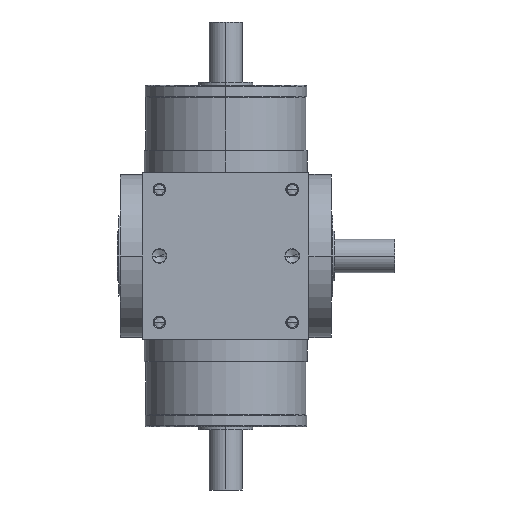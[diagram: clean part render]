
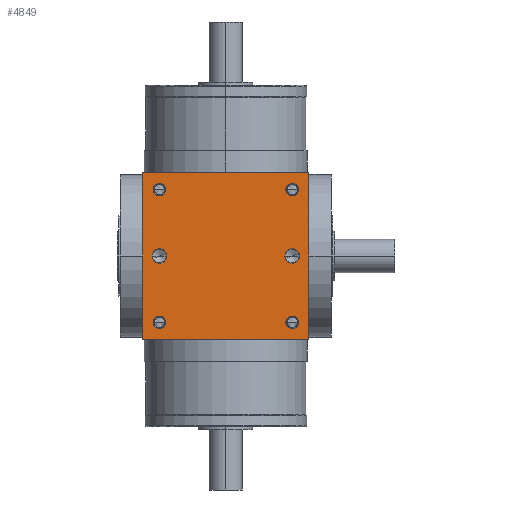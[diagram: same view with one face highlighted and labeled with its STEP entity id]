
A CAD part, front view. The second image highlights one B-rep face of the part: STEP entity #4849.
In plain terms, the highlighted planar face has unit normal (0, -1, 0).
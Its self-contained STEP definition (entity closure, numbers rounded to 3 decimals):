
#5=DIRECTION('',(1.,0.,0.));
#6=VECTOR('',#5,110.);
#7=CARTESIAN_POINT('',(-55.,-55.,-55.));
#8=LINE('',#7,#6);
#165=DIRECTION('',(0.,0.,1.));
#166=VECTOR('',#165,110.);
#167=CARTESIAN_POINT('',(55.,-55.,-55.));
#168=LINE('',#167,#166);
#219=DIRECTION('',(0.,0.,1.));
#220=VECTOR('',#219,110.);
#221=CARTESIAN_POINT('',(-55.,-55.,-55.));
#222=LINE('',#221,#220);
#223=CARTESIAN_POINT('',(44.,-55.,44.));
#224=DIRECTION('',(0.,1.,0.));
#225=DIRECTION('',(-1.,0.,0.));
#226=AXIS2_PLACEMENT_3D('',#223,#224,#225);
#228=CARTESIAN_POINT('',(44.,-55.,44.));
#229=DIRECTION('',(0.,1.,0.));
#230=DIRECTION('',(1.,0.,0.));
#231=AXIS2_PLACEMENT_3D('',#228,#229,#230);
#233=CARTESIAN_POINT('',(-44.,-55.,44.));
#234=DIRECTION('',(0.,1.,0.));
#235=DIRECTION('',(-1.,0.,0.));
#236=AXIS2_PLACEMENT_3D('',#233,#234,#235);
#238=CARTESIAN_POINT('',(-44.,-55.,44.));
#239=DIRECTION('',(0.,1.,0.));
#240=DIRECTION('',(1.,0.,0.));
#241=AXIS2_PLACEMENT_3D('',#238,#239,#240);
#243=CARTESIAN_POINT('',(44.,-55.,-44.));
#244=DIRECTION('',(0.,1.,0.));
#245=DIRECTION('',(-1.,0.,0.));
#246=AXIS2_PLACEMENT_3D('',#243,#244,#245);
#248=CARTESIAN_POINT('',(44.,-55.,-44.));
#249=DIRECTION('',(0.,1.,0.));
#250=DIRECTION('',(1.,0.,0.));
#251=AXIS2_PLACEMENT_3D('',#248,#249,#250);
#253=CARTESIAN_POINT('',(-44.,-55.,-44.));
#254=DIRECTION('',(0.,1.,0.));
#255=DIRECTION('',(-1.,0.,0.));
#256=AXIS2_PLACEMENT_3D('',#253,#254,#255);
#258=CARTESIAN_POINT('',(-44.,-55.,-44.));
#259=DIRECTION('',(0.,1.,0.));
#260=DIRECTION('',(1.,0.,0.));
#261=AXIS2_PLACEMENT_3D('',#258,#259,#260);
#263=CARTESIAN_POINT('',(-44.,-55.,0.));
#264=DIRECTION('',(0.,1.,0.));
#265=DIRECTION('',(1.,0.,0.));
#266=AXIS2_PLACEMENT_3D('',#263,#264,#265);
#268=CARTESIAN_POINT('',(-44.,-55.,0.));
#269=DIRECTION('',(0.,1.,0.));
#270=DIRECTION('',(-1.,0.,0.));
#271=AXIS2_PLACEMENT_3D('',#268,#269,#270);
#273=CARTESIAN_POINT('',(44.,-55.,0.));
#274=DIRECTION('',(0.,1.,0.));
#275=DIRECTION('',(1.,0.,0.));
#276=AXIS2_PLACEMENT_3D('',#273,#274,#275);
#278=CARTESIAN_POINT('',(44.,-55.,0.));
#279=DIRECTION('',(0.,1.,0.));
#280=DIRECTION('',(-1.,0.,0.));
#281=AXIS2_PLACEMENT_3D('',#278,#279,#280);
#295=DIRECTION('',(1.,0.,0.));
#296=VECTOR('',#295,110.);
#297=CARTESIAN_POINT('',(-55.,-55.,55.));
#298=LINE('',#297,#296);
#3868=CARTESIAN_POINT('',(-55.,-55.,-55.));
#3870=VERTEX_POINT('',#3868);
#3871=CARTESIAN_POINT('',(55.,-55.,-55.));
#3872=VERTEX_POINT('',#3871);
#3876=CARTESIAN_POINT('',(-55.,-55.,55.));
#3878=VERTEX_POINT('',#3876);
#3879=CARTESIAN_POINT('',(55.,-55.,55.));
#3880=VERTEX_POINT('',#3879);
#4051=CARTESIAN_POINT('',(39.8,-55.,44.));
#4052=CARTESIAN_POINT('',(48.2,-55.,44.));
#4053=VERTEX_POINT('',#4051);
#4054=VERTEX_POINT('',#4052);
#4059=CARTESIAN_POINT('',(-48.2,-55.,44.));
#4060=CARTESIAN_POINT('',(-39.8,-55.,44.));
#4061=VERTEX_POINT('',#4059);
#4062=VERTEX_POINT('',#4060);
#4067=CARTESIAN_POINT('',(39.8,-55.,-44.));
#4068=CARTESIAN_POINT('',(48.2,-55.,-44.));
#4069=VERTEX_POINT('',#4067);
#4070=VERTEX_POINT('',#4068);
#4075=CARTESIAN_POINT('',(-48.2,-55.,-44.));
#4076=CARTESIAN_POINT('',(-39.8,-55.,-44.));
#4077=VERTEX_POINT('',#4075);
#4078=VERTEX_POINT('',#4076);
#4417=CARTESIAN_POINT('',(-39.15,-55.,0.));
#4418=CARTESIAN_POINT('',(-48.85,-55.,0.));
#4419=VERTEX_POINT('',#4417);
#4420=VERTEX_POINT('',#4418);
#4425=CARTESIAN_POINT('',(48.85,-55.,0.));
#4426=CARTESIAN_POINT('',(39.15,-55.,0.));
#4427=VERTEX_POINT('',#4425);
#4428=VERTEX_POINT('',#4426);
#4801=CARTESIAN_POINT('',(-55.,-55.,-55.));
#4802=DIRECTION('',(0.,-1.,0.));
#4803=DIRECTION('',(1.,0.,0.));
#4804=AXIS2_PLACEMENT_3D('',#4801,#4802,#4803);
#4805=PLANE('',#4804);
#4806=ORIENTED_EDGE('',*,*,#4635,.F.);
#4807=ORIENTED_EDGE('',*,*,#4684,.T.);
#4809=ORIENTED_EDGE('',*,*,#4808,.T.);
#4810=ORIENTED_EDGE('',*,*,#4763,.F.);
#4811=EDGE_LOOP('',(#4806,#4807,#4809,#4810));
#4812=FACE_OUTER_BOUND('',#4811,.F.);
#4814=ORIENTED_EDGE('',*,*,#4813,.F.);
#4816=ORIENTED_EDGE('',*,*,#4815,.F.);
#4817=EDGE_LOOP('',(#4814,#4816));
#4818=FACE_BOUND('',#4817,.F.);
#4820=ORIENTED_EDGE('',*,*,#4819,.F.);
#4822=ORIENTED_EDGE('',*,*,#4821,.F.);
#4823=EDGE_LOOP('',(#4820,#4822));
#4824=FACE_BOUND('',#4823,.F.);
#4826=ORIENTED_EDGE('',*,*,#4825,.F.);
#4828=ORIENTED_EDGE('',*,*,#4827,.F.);
#4829=EDGE_LOOP('',(#4826,#4828));
#4830=FACE_BOUND('',#4829,.F.);
#4832=ORIENTED_EDGE('',*,*,#4831,.F.);
#4834=ORIENTED_EDGE('',*,*,#4833,.F.);
#4835=EDGE_LOOP('',(#4832,#4834));
#4836=FACE_BOUND('',#4835,.F.);
#4838=ORIENTED_EDGE('',*,*,#4837,.F.);
#4840=ORIENTED_EDGE('',*,*,#4839,.F.);
#4841=EDGE_LOOP('',(#4838,#4840));
#4842=FACE_BOUND('',#4841,.F.);
#4844=ORIENTED_EDGE('',*,*,#4843,.F.);
#4846=ORIENTED_EDGE('',*,*,#4845,.F.);
#4847=EDGE_LOOP('',(#4844,#4846));
#4848=FACE_BOUND('',#4847,.F.);
#4849=ADVANCED_FACE('',(#4812,#4818,#4824,#4830,#4836,#4842,#4848),#4805,.T.);
#227=CIRCLE('',#226,4.2);
#232=CIRCLE('',#231,4.2);
#237=CIRCLE('',#236,4.2);
#242=CIRCLE('',#241,4.2);
#247=CIRCLE('',#246,4.2);
#252=CIRCLE('',#251,4.2);
#257=CIRCLE('',#256,4.2);
#262=CIRCLE('',#261,4.2);
#267=CIRCLE('',#266,4.85);
#272=CIRCLE('',#271,4.85);
#277=CIRCLE('',#276,4.85);
#282=CIRCLE('',#281,4.85);
#4635=EDGE_CURVE('',#3870,#3872,#8,.T.);
#4684=EDGE_CURVE('',#3870,#3878,#222,.T.);
#4763=EDGE_CURVE('',#3872,#3880,#168,.T.);
#4808=EDGE_CURVE('',#3878,#3880,#298,.T.);
#4813=EDGE_CURVE('',#4053,#4054,#227,.T.);
#4815=EDGE_CURVE('',#4054,#4053,#232,.T.);
#4819=EDGE_CURVE('',#4061,#4062,#237,.T.);
#4821=EDGE_CURVE('',#4062,#4061,#242,.T.);
#4825=EDGE_CURVE('',#4069,#4070,#247,.T.);
#4827=EDGE_CURVE('',#4070,#4069,#252,.T.);
#4831=EDGE_CURVE('',#4077,#4078,#257,.T.);
#4833=EDGE_CURVE('',#4078,#4077,#262,.T.);
#4837=EDGE_CURVE('',#4419,#4420,#267,.T.);
#4839=EDGE_CURVE('',#4420,#4419,#272,.T.);
#4843=EDGE_CURVE('',#4427,#4428,#277,.T.);
#4845=EDGE_CURVE('',#4428,#4427,#282,.T.);
